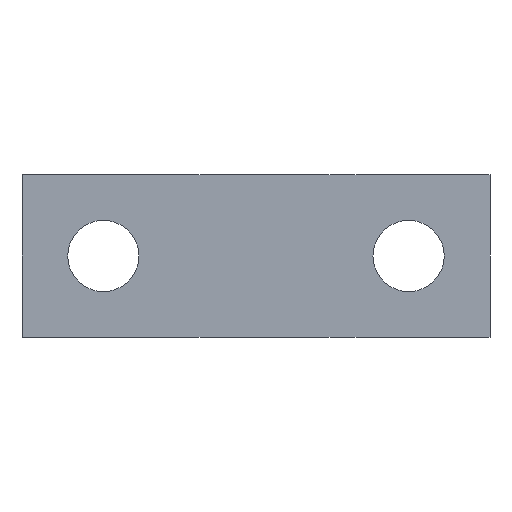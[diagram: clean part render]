
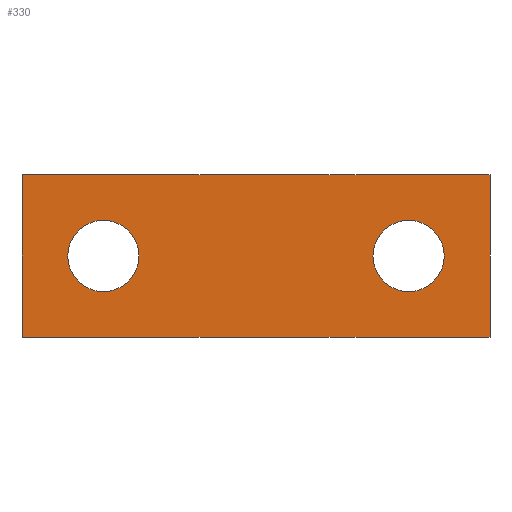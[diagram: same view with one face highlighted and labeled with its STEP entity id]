
A CAD part, front view. The second image highlights one B-rep face of the part: STEP entity #330.
In plain terms, the highlighted planar face has unit normal (0, -1, 0).
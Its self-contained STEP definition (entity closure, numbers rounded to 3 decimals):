
#16=FACE_BOUND('',#60,.T.);
#17=FACE_BOUND('',#61,.T.);
#25=PLANE('',#369);
#41=FACE_OUTER_BOUND('',#59,.T.);
#59=EDGE_LOOP('',(#264,#265,#266,#267));
#60=EDGE_LOOP('',(#268));
#61=EDGE_LOOP('',(#269));
#75=CIRCLE('',#361,1.75);
#76=CIRCLE('',#363,1.75);
#103=LINE('',#572,#136);
#104=LINE('',#575,#137);
#105=LINE('',#577,#138);
#106=LINE('',#578,#139);
#136=VECTOR('',#434,10.);
#137=VECTOR('',#437,10.);
#138=VECTOR('',#438,10.);
#139=VECTOR('',#439,10.);
#166=VERTEX_POINT('',#552);
#167=VERTEX_POINT('',#556);
#171=VERTEX_POINT('',#568);
#172=VERTEX_POINT('',#570);
#173=VERTEX_POINT('',#574);
#174=VERTEX_POINT('',#576);
#199=EDGE_CURVE('',#166,#166,#75,.T.);
#201=EDGE_CURVE('',#167,#167,#76,.T.);
#209=EDGE_CURVE('',#171,#172,#103,.T.);
#210=EDGE_CURVE('',#171,#173,#104,.T.);
#211=EDGE_CURVE('',#174,#172,#105,.T.);
#212=EDGE_CURVE('',#173,#174,#106,.T.);
#264=ORIENTED_EDGE('',*,*,#210,.F.);
#265=ORIENTED_EDGE('',*,*,#209,.T.);
#266=ORIENTED_EDGE('',*,*,#211,.F.);
#267=ORIENTED_EDGE('',*,*,#212,.F.);
#268=ORIENTED_EDGE('',*,*,#199,.T.);
#269=ORIENTED_EDGE('',*,*,#201,.T.);
#330=ADVANCED_FACE('',(#41,#16,#17),#25,.T.);
#361=AXIS2_PLACEMENT_3D('',#553,#413,#414);
#363=AXIS2_PLACEMENT_3D('',#557,#418,#419);
#369=AXIS2_PLACEMENT_3D('',#573,#435,#436);
#413=DIRECTION('center_axis',(0.,1.,0.));
#414=DIRECTION('ref_axis',(-1.,0.,0.));
#418=DIRECTION('center_axis',(0.,1.,0.));
#419=DIRECTION('ref_axis',(-1.,0.,0.));
#434=DIRECTION('',(0.,0.,-1.));
#435=DIRECTION('center_axis',(0.,-1.,0.));
#436=DIRECTION('ref_axis',(-1.,0.,0.));
#437=DIRECTION('',(1.,0.,0.));
#438=DIRECTION('',(-1.,0.,0.));
#439=DIRECTION('',(0.,0.,-1.));
#552=CARTESIAN_POINT('',(5.75,0.,-4.));
#553=CARTESIAN_POINT('Origin',(4.,0.,-4.));
#556=CARTESIAN_POINT('',(20.75,0.,-4.));
#557=CARTESIAN_POINT('Origin',(19.,0.,-4.));
#568=CARTESIAN_POINT('',(0.,0.,0.));
#570=CARTESIAN_POINT('',(0.,0.,-8.));
#572=CARTESIAN_POINT('',(0.,0.,0.));
#573=CARTESIAN_POINT('Origin',(23.,0.,0.));
#574=CARTESIAN_POINT('',(23.,0.,0.));
#575=CARTESIAN_POINT('',(0.,0.,0.));
#576=CARTESIAN_POINT('',(23.,0.,-8.));
#577=CARTESIAN_POINT('',(0.,0.,-8.));
#578=CARTESIAN_POINT('',(23.,0.,0.));
